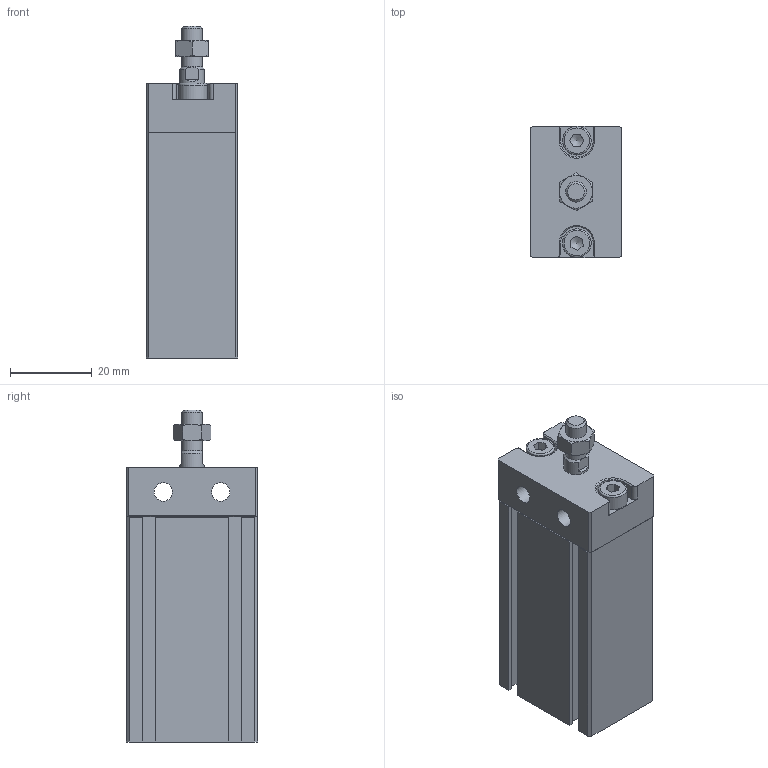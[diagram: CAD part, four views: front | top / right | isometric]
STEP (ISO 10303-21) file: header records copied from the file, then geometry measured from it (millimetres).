
FILE_DESCRIPTION((''),'2;1');
FILE_NAME('I:\3D電子目錄\氣缸\ND\ND\ND16-B\ND16x30-B.stp','2007-07-23T19:21:51',('Administrator'),(''),'Autodesk Inventor 11','Autodesk Inventor 11','');
FILE_SCHEMA(('AUTOMOTIVE_DESIGN { 1 0 10303 214 1 1 1 1 }'));
Length unit declared in the file: millimetre
Products named in the file (4): ND16-B; R 形環 18; ISO 4762 M4 x 10
Assembly tree (4 placements, depth 2):
  ND16-B
    ND16-B
    R 形環 18
    ISO 4762 M4 x 10  x2
Bounding box: 22.4 x 32.1 x 81 mm (x, y, z)
Volume: 41522.2 mm3; surface area: 14414.4 mm2
Topology: 5 solids, 5 shells, 190 faces, 450 edges, 285 vertices
Faces by surface type: plane 117, cylinder 28, cone 28, bspline 14, torus 3
Full cylindrical faces by diameter (mm): 1.5 x4, 4 x2, 4.5 x2, 5 x2, 6 x1, 7 x2, 10 x1, 18 x1, 19 x1
Entity records: 5015 total; most frequent: CARTESIAN_POINT 1070, DIRECTION 784, ORIENTED_EDGE 754, EDGE_CURVE 377, AXIS2_PLACEMENT_3D 271, VERTEX_POINT 259, VECTOR 242, LINE 242
